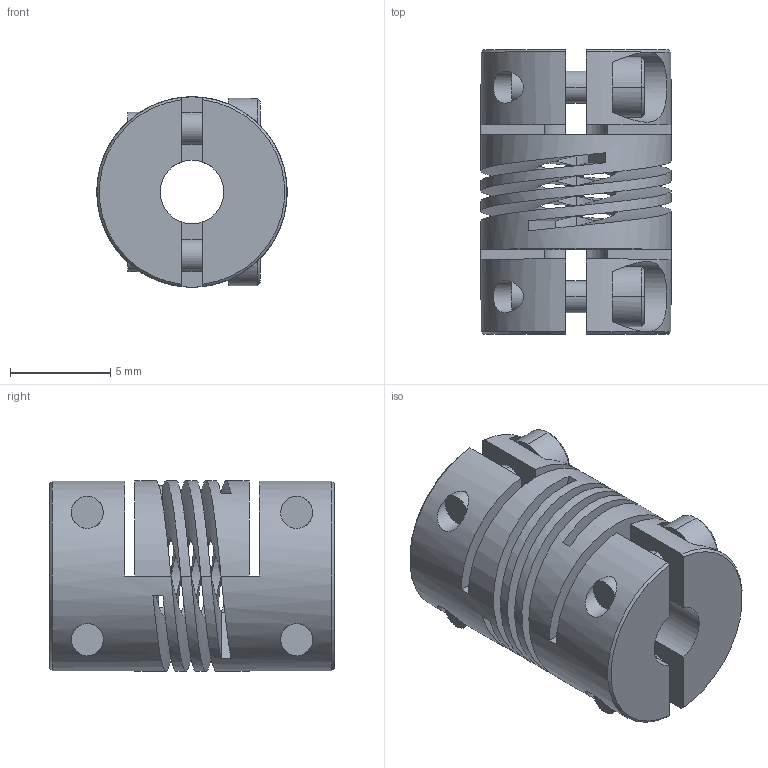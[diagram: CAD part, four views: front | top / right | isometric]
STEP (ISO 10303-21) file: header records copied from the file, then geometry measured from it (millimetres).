
FILE_DESCRIPTION((''),'2;1');
FILE_NAME('721_09','2006-12-05T',('Gary Melling'),(''),'PRO/ENGINEER BY PARAMETRIC TECHNOLOGY CORPORATION, 2006240','PRO/ENGINEER BY PARAMETRIC TECHNOLOGY CORPORATION, 2006240','');
FILE_SCHEMA(('CONFIG_CONTROL_DESIGN'));
Length unit declared in the file: millimetre
Products named in the file (1): 721_09
Bounding box: 9.5 x 14.2 x 9.5 mm (x, y, z)
Volume: 669.1 mm3; surface area: 1348 mm2
Topology: 1 solids, 1 shells, 138 faces, 364 edges, 230 vertices
Faces by surface type: plane 76, cylinder 44, cone 12, bspline 6
Entity records: 5302 total; most frequent: CARTESIAN_POINT 1882, ORIENTED_EDGE 728, DIRECTION 666, EDGE_CURVE 364, AXIS2_PLACEMENT_3D 232, VERTEX_POINT 230, VECTOR 202, LINE 202
